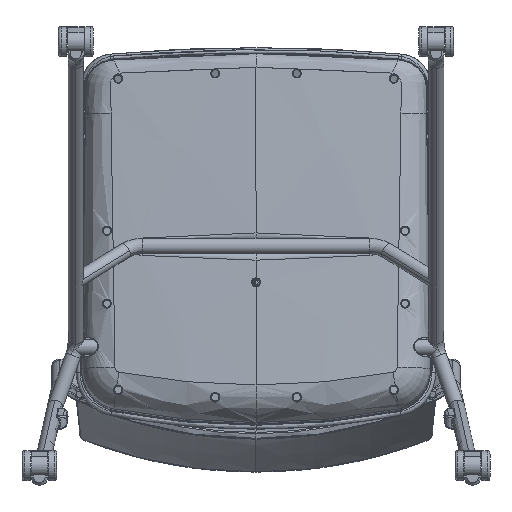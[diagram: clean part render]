
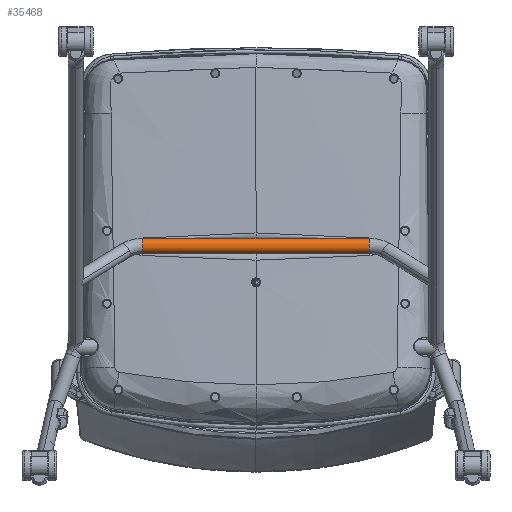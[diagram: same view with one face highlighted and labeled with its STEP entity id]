
A CAD part, front view. The second image highlights one B-rep face of the part: STEP entity #35468.
In plain terms, the highlighted cylindrical face has radius 9.525 mm (diameter 19.05 mm), a partial arc.
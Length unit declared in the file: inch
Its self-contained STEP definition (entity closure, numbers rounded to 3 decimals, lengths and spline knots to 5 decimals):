
#83 = CARTESIAN_POINT ( 'NONE',  ( -5.5076, 16.5153, 10.88353 ) ) ;
#197 = DIRECTION ( 'NONE',  ( 1., 0., 0. ) ) ;
#3243 = VERTEX_POINT ( 'NONE', #56923 ) ;
#4308 = EDGE_CURVE ( 'NONE', #12030, #3243, #38067, .T. ) ;
#4581 = CIRCLE ( 'NONE', #32791, 0.375 ) ;
#5508 = ORIENTED_EDGE ( 'NONE', *, *, #19500, .F. ) ;
#6785 = VERTEX_POINT ( 'NONE', #10622 ) ;
#9237 = EDGE_LOOP ( 'NONE', ( #60348, #26667, #33642, #19521, #37301, #5508 ) ) ;
#10410 = CIRCLE ( 'NONE', #70553, 0.375 ) ;
#10622 = CARTESIAN_POINT ( 'NONE',  ( -5.5076, 16.23376, 11.01082 ) ) ;
#10647 = VERTEX_POINT ( 'NONE', #54023 ) ;
#12030 = VERTEX_POINT ( 'NONE', #42954 ) ;
#14322 = LINE ( 'NONE', #38334, #56134 ) ;
#14392 = LINE ( 'NONE', #63055, #70652 ) ;
#14506 = AXIS2_PLACEMENT_3D ( 'NONE', #21751, #59880, #27257 ) ;
#16059 = EDGE_CURVE ( 'NONE', #52289, #10647, #14392, .T. ) ;
#19500 = EDGE_CURVE ( 'NONE', #43890, #12030, #14322, .T. ) ;
#19521 = ORIENTED_EDGE ( 'NONE', *, *, #36761, .F. ) ;
#19540 = AXIS2_PLACEMENT_3D ( 'NONE', #35119, #51793, #29869 ) ;
#20689 = DIRECTION ( 'NONE',  ( 1., 0., 0. ) ) ;
#21751 = CARTESIAN_POINT ( 'NONE',  ( 5.5076, 16.5153, 11.25853 ) ) ;
#25012 = CARTESIAN_POINT ( 'NONE',  ( 5.5076, 16.5153, 11.25853 ) ) ;
#25452 = DIRECTION ( 'NONE',  ( 1., 0., 0. ) ) ;
#26667 = ORIENTED_EDGE ( 'NONE', *, *, #48442, .T. ) ;
#27257 = DIRECTION ( 'NONE',  ( 0., 0., -1. ) ) ;
#29869 = DIRECTION ( 'NONE',  ( 0., 0., 1. ) ) ;
#30470 = DIRECTION ( 'NONE',  ( 0., 0., -1. ) ) ;
#32791 = AXIS2_PLACEMENT_3D ( 'NONE', #25012, #63105, #30470 ) ;
#33642 = ORIENTED_EDGE ( 'NONE', *, *, #16059, .T. ) ;
#35119 = CARTESIAN_POINT ( 'NONE',  ( 0., 16.5153, 11.25853 ) ) ;
#35468 = ADVANCED_FACE ( 'NONE', ( #66911 ), #50742, .T. ) ;
#36761 = EDGE_CURVE ( 'NONE', #3243, #10647, #4581, .T. ) ;
#37301 = ORIENTED_EDGE ( 'NONE', *, *, #4308, .F. ) ;
#38067 = CIRCLE ( 'NONE', #14506, 0.375 ) ;
#38334 = CARTESIAN_POINT ( 'NONE',  ( 0., 16.5153, 11.63353 ) ) ;
#38653 = CARTESIAN_POINT ( 'NONE',  ( -5.5076, 16.5153, 11.63353 ) ) ;
#42954 = CARTESIAN_POINT ( 'NONE',  ( 5.5076, 16.5153, 11.63353 ) ) ;
#43890 = VERTEX_POINT ( 'NONE', #38653 ) ;
#48442 = EDGE_CURVE ( 'NONE', #6785, #52289, #58875, .T. ) ;
#50742 = CYLINDRICAL_SURFACE ( 'NONE', #19540, 0.375 ) ;
#51793 = DIRECTION ( 'NONE',  ( 1., 0., 0. ) ) ;
#52289 = VERTEX_POINT ( 'NONE', #83 ) ;
#53353 = CARTESIAN_POINT ( 'NONE',  ( -5.5076, 16.5153, 11.25853 ) ) ;
#54023 = CARTESIAN_POINT ( 'NONE',  ( 5.5076, 16.5153, 10.88353 ) ) ;
#56134 = VECTOR ( 'NONE', #197, 39.37008 ) ;
#56597 = EDGE_CURVE ( 'NONE', #43890, #6785, #10410, .T. ) ;
#56923 = CARTESIAN_POINT ( 'NONE',  ( 5.5076, 16.23376, 11.01082 ) ) ;
#57822 = DIRECTION ( 'NONE',  ( 1., 0., 0. ) ) ;
#58085 = CARTESIAN_POINT ( 'NONE',  ( -5.5076, 16.5153, 11.25853 ) ) ;
#58593 = AXIS2_PLACEMENT_3D ( 'NONE', #58085, #25452, #63542 ) ;
#58829 = DIRECTION ( 'NONE',  ( 0., 0., -1. ) ) ;
#58875 = CIRCLE ( 'NONE', #58593, 0.375 ) ;
#59880 = DIRECTION ( 'NONE',  ( 1., 0., 0. ) ) ;
#60348 = ORIENTED_EDGE ( 'NONE', *, *, #56597, .T. ) ;
#63055 = CARTESIAN_POINT ( 'NONE',  ( 0., 16.5153, 10.88353 ) ) ;
#63105 = DIRECTION ( 'NONE',  ( 1., 0., 0. ) ) ;
#63542 = DIRECTION ( 'NONE',  ( 0., 0., -1. ) ) ;
#66911 = FACE_OUTER_BOUND ( 'NONE', #9237, .T. ) ;
#70553 = AXIS2_PLACEMENT_3D ( 'NONE', #53353, #20689, #58829 ) ;
#70652 = VECTOR ( 'NONE', #57822, 39.37008 ) ;
